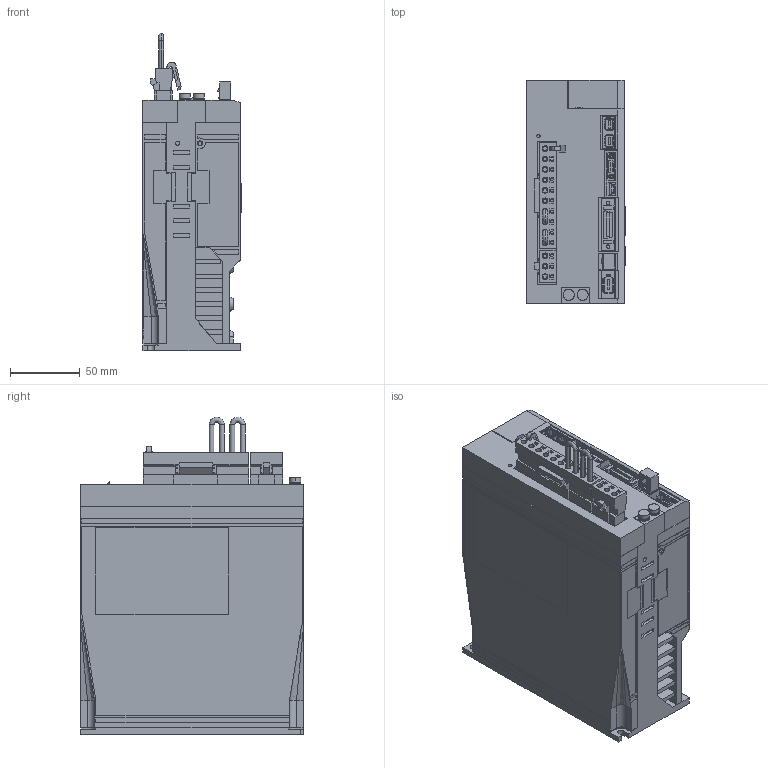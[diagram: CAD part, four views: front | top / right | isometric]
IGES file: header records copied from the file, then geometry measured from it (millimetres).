
Start section: SolidWorks IGES file using analytic representation for surfaces
Global section: file name: D:\YASKAWA\sgdv_3r8a2_a.IGS; native system: SolidWorks 2006 by SolidWorks Corporation; preprocessor: SolidWorks 2006 by SolidWorks Corporation; author: yamanouchi; date: 120907.132111; units: millimetre
Bounding box: 70.5 x 160 x 228 mm (x, y, z)
Surface area: 165897.2 mm2 (no closed solid volume)
Topology: 0 solids, 0 shells, 2025 faces, 15852 edges, 15851 vertices
Faces by surface type: bspline 1808, revolution 217
